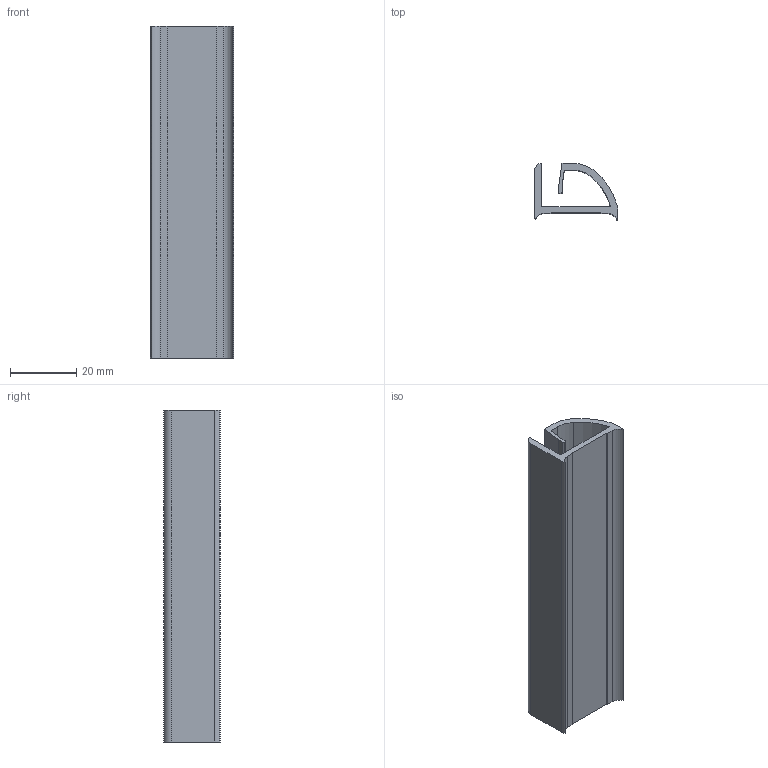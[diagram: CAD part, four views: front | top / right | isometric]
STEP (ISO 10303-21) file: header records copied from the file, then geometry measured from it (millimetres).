
FILE_DESCRIPTION (( 'STEP AP214' ), '1' );
FILE_NAME ('A40832.step', '2024-12-03T16:13:43', ( '' ), ( '' ), 'SwSTEP 2.0', 'SolidWorks 2023', '' );
FILE_SCHEMA (( 'AUTOMOTIVE_DESIGN' ));
Length unit declared in the file: millimetre
Products named in the file (1): A40832
Bounding box: 25 x 17 x 100 mm (x, y, z)
Volume: 12636.3 mm3; surface area: 14411.1 mm2
Topology: 1 solids, 1 shells, 34 faces, 96 edges, 64 vertices
Faces by surface type: plane 19, cylinder 15
Entity records: 1133 total; most frequent: DIRECTION 196, CARTESIAN_POINT 195, ORIENTED_EDGE 192, EDGE_CURVE 96, VECTOR 66, LINE 66, AXIS2_PLACEMENT_3D 65, VERTEX_POINT 64
